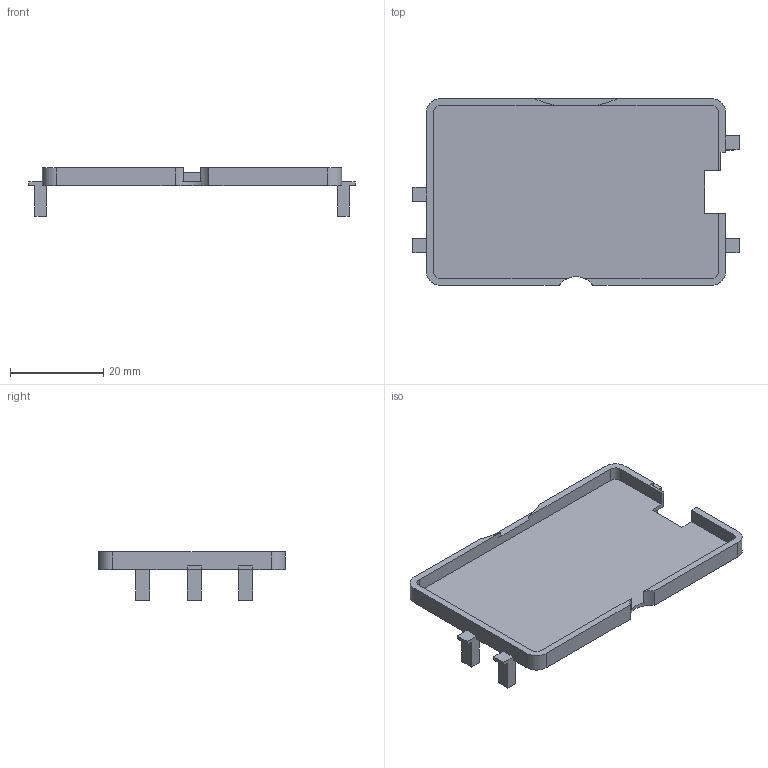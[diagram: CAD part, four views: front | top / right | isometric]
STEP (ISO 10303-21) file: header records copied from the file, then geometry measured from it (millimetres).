
FILE_DESCRIPTION(('Open CASCADE Model'),'2;1');
FILE_NAME('Open CASCADE Shape Model','2026-09-04T20:19:48',('Author'),( 'Open CASCADE'),'Open CASCADE STEP processor 7.7','Open CASCADE 7.7' ,'Unknown');
FILE_SCHEMA(('AUTOMOTIVE_DESIGN { 1 0 10303 214 1 1 1 1 }'));
Length unit declared in the file: millimetre
Products named in the file (1): Open CASCADE STEP translator 7.7 1
Bounding box: 69.8 x 40 x 10.35 mm (x, y, z)
Volume: 3007.2 mm3; surface area: 6646.7 mm2
Topology: 1 solids, 1 shells, 66 faces, 192 edges, 128 vertices
Faces by surface type: plane 55, cylinder 11
Entity records: 4692 total; most frequent: CARTESIAN_POINT 835, DIRECTION 720, LINE 524, VECTOR 524, ORIENTED_EDGE 384, PCURVE 384, DEFINITIONAL_REPRESENTATION 384, EDGE_CURVE 192
